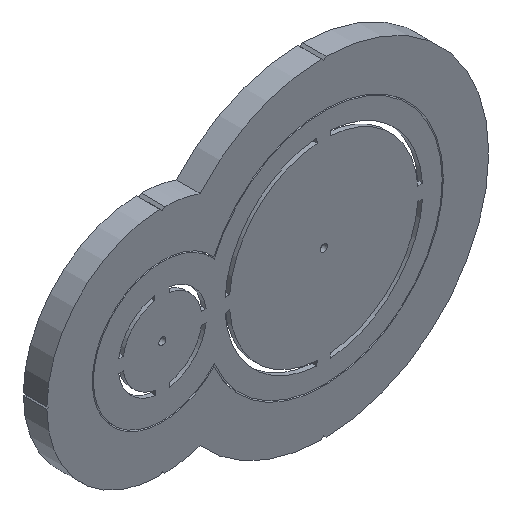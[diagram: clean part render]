
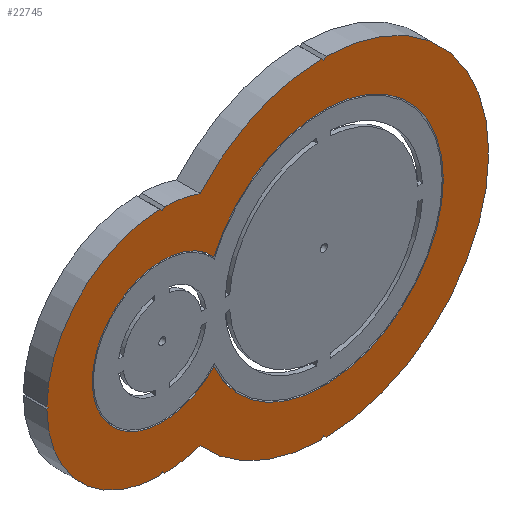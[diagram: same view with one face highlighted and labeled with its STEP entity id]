
A CAD part, isometric view. The second image highlights one B-rep face of the part: STEP entity #22745.
In plain terms, the highlighted planar face has unit normal (0, -1, 0).
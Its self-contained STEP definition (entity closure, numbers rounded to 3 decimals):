
#1780=CIRCLE('',#23405,29.75);
#1783=CIRCLE('',#23409,50.75);
#1784=CIRCLE('',#23578,49.);
#1785=CIRCLE('',#23580,49.);
#1786=CIRCLE('',#23583,70.);
#1787=CIRCLE('',#23589,70.);
#1788=CIRCLE('',#23591,70.);
#1789=CIRCLE('',#23592,70.);
#1790=CIRCLE('',#23593,49.);
#1791=CIRCLE('',#23594,49.);
#1899=FACE_BOUND('',#4279,.T.);
#2982=FACE_OUTER_BOUND('',#4278,.T.);
#4278=EDGE_LOOP('',(#19099,#19100,#19101,#19102,#19103,#19104,#19105,#19106,
#19107,#19108,#19109,#19110,#19111,#19112,#19113,#19114,#19115,#19116,#19117,
#19118));
#4279=EDGE_LOOP('',(#19119,#19120));
#6119=LINE('',#39015,#8183);
#6122=LINE('',#39020,#8186);
#6124=LINE('',#39025,#8188);
#6127=LINE('',#39030,#8191);
#6131=LINE('',#39046,#8195);
#6134=LINE('',#39051,#8198);
#6136=LINE('',#39056,#8200);
#6139=LINE('',#39061,#8203);
#6142=LINE('',#39071,#8206);
#6143=LINE('',#39073,#8207);
#6144=LINE('',#39079,#8208);
#6145=LINE('',#39080,#8209);
#8183=VECTOR('',#26027,10.);
#8186=VECTOR('',#26032,10.);
#8188=VECTOR('',#26036,10.);
#8191=VECTOR('',#26041,10.);
#8195=VECTOR('',#26061,10.);
#8198=VECTOR('',#26066,10.);
#8200=VECTOR('',#26070,10.);
#8203=VECTOR('',#26075,10.);
#8206=VECTOR('',#26086,10.);
#8207=VECTOR('',#26087,10.);
#8208=VECTOR('',#26094,10.);
#8209=VECTOR('',#26095,10.);
#9983=VERTEX_POINT('',#34435);
#9984=VERTEX_POINT('',#34437);
#10378=VERTEX_POINT('',#39013);
#10379=VERTEX_POINT('',#39014);
#10380=VERTEX_POINT('',#39019);
#10381=VERTEX_POINT('',#39023);
#10382=VERTEX_POINT('',#39024);
#10383=VERTEX_POINT('',#39029);
#10384=VERTEX_POINT('',#39033);
#10385=VERTEX_POINT('',#39037);
#10386=VERTEX_POINT('',#39044);
#10387=VERTEX_POINT('',#39045);
#10388=VERTEX_POINT('',#39050);
#10389=VERTEX_POINT('',#39054);
#10390=VERTEX_POINT('',#39055);
#10391=VERTEX_POINT('',#39060);
#10392=VERTEX_POINT('',#39064);
#10393=VERTEX_POINT('',#39068);
#10394=VERTEX_POINT('',#39070);
#10395=VERTEX_POINT('',#39072);
#10396=VERTEX_POINT('',#39076);
#10397=VERTEX_POINT('',#39078);
#12644=EDGE_CURVE('',#9984,#9983,#1780,.T.);
#12651=EDGE_CURVE('',#9983,#9984,#1783,.T.);
#13401=EDGE_CURVE('',#10378,#10379,#6119,.T.);
#13404=EDGE_CURVE('',#10380,#10378,#6122,.T.);
#13406=EDGE_CURVE('',#10381,#10382,#6124,.T.);
#13409=EDGE_CURVE('',#10382,#10383,#6127,.T.);
#13411=EDGE_CURVE('',#10384,#10380,#1784,.T.);
#13414=EDGE_CURVE('',#10379,#10385,#1785,.T.);
#13415=EDGE_CURVE('',#10385,#10381,#1786,.T.);
#13416=EDGE_CURVE('',#10386,#10387,#6131,.T.);
#13419=EDGE_CURVE('',#10387,#10388,#6134,.T.);
#13421=EDGE_CURVE('',#10389,#10390,#6136,.T.);
#13424=EDGE_CURVE('',#10390,#10391,#6139,.T.);
#13427=EDGE_CURVE('',#10388,#10392,#1787,.T.);
#13428=EDGE_CURVE('',#10383,#10393,#1788,.T.);
#13429=EDGE_CURVE('',#10393,#10394,#6142,.T.);
#13430=EDGE_CURVE('',#10394,#10395,#6143,.T.);
#13431=EDGE_CURVE('',#10395,#10386,#1789,.T.);
#13432=EDGE_CURVE('',#10392,#10389,#1790,.T.);
#13433=EDGE_CURVE('',#10391,#10396,#1791,.T.);
#13434=EDGE_CURVE('',#10396,#10397,#6144,.T.);
#13435=EDGE_CURVE('',#10397,#10384,#6145,.T.);
#19099=ORIENTED_EDGE('',*,*,#13401,.T.);
#19100=ORIENTED_EDGE('',*,*,#13414,.T.);
#19101=ORIENTED_EDGE('',*,*,#13415,.T.);
#19102=ORIENTED_EDGE('',*,*,#13406,.T.);
#19103=ORIENTED_EDGE('',*,*,#13409,.T.);
#19104=ORIENTED_EDGE('',*,*,#13428,.T.);
#19105=ORIENTED_EDGE('',*,*,#13429,.T.);
#19106=ORIENTED_EDGE('',*,*,#13430,.T.);
#19107=ORIENTED_EDGE('',*,*,#13431,.T.);
#19108=ORIENTED_EDGE('',*,*,#13416,.T.);
#19109=ORIENTED_EDGE('',*,*,#13419,.T.);
#19110=ORIENTED_EDGE('',*,*,#13427,.T.);
#19111=ORIENTED_EDGE('',*,*,#13432,.T.);
#19112=ORIENTED_EDGE('',*,*,#13421,.T.);
#19113=ORIENTED_EDGE('',*,*,#13424,.T.);
#19114=ORIENTED_EDGE('',*,*,#13433,.T.);
#19115=ORIENTED_EDGE('',*,*,#13434,.T.);
#19116=ORIENTED_EDGE('',*,*,#13435,.T.);
#19117=ORIENTED_EDGE('',*,*,#13411,.T.);
#19118=ORIENTED_EDGE('',*,*,#13404,.T.);
#19119=ORIENTED_EDGE('',*,*,#12651,.T.);
#19120=ORIENTED_EDGE('',*,*,#12644,.T.);
#21746=PLANE('',#23590);
#22745=ADVANCED_FACE('',(#2982,#1899),#21746,.T.);
#23405=AXIS2_PLACEMENT_3D('',#34438,#25186,#25187);
#23409=AXIS2_PLACEMENT_3D('',#34449,#25198,#25199);
#23578=AXIS2_PLACEMENT_3D('',#39034,#26045,#26046);
#23580=AXIS2_PLACEMENT_3D('',#39039,#26051,#26052);
#23583=AXIS2_PLACEMENT_3D('',#39042,#26057,#26058);
#23589=AXIS2_PLACEMENT_3D('',#39066,#26080,#26081);
#23590=AXIS2_PLACEMENT_3D('',#39067,#26082,#26083);
#23591=AXIS2_PLACEMENT_3D('',#39069,#26084,#26085);
#23592=AXIS2_PLACEMENT_3D('',#39074,#26088,#26089);
#23593=AXIS2_PLACEMENT_3D('',#39075,#26090,#26091);
#23594=AXIS2_PLACEMENT_3D('',#39077,#26092,#26093);
#25186=DIRECTION('center_axis',(0.,1.,0.));
#25187=DIRECTION('ref_axis',(0.736,0.,0.676));
#25198=DIRECTION('center_axis',(0.,1.,0.));
#25199=DIRECTION('ref_axis',(-0.918,0.,-0.397));
#26027=DIRECTION('',(0.707,0.,-0.708));
#26032=DIRECTION('',(0.708,0.,0.707));
#26036=DIRECTION('',(0.708,0.,0.706));
#26041=DIRECTION('',(0.706,0.,-0.708));
#26045=DIRECTION('center_axis',(0.,-1.,0.));
#26046=DIRECTION('ref_axis',(0.327,0.,0.945));
#26051=DIRECTION('center_axis',(0.,-1.,0.));
#26052=DIRECTION('ref_axis',(0.327,0.,0.945));
#26057=DIRECTION('center_axis',(0.,-1.,0.));
#26058=DIRECTION('ref_axis',(-0.75,0.,-0.662));
#26061=DIRECTION('',(-0.707,0.,-0.707));
#26066=DIRECTION('',(-0.707,0.,0.707));
#26070=DIRECTION('',(-0.707,0.,-0.707));
#26075=DIRECTION('',(-0.707,0.,0.707));
#26080=DIRECTION('center_axis',(0.,-1.,0.));
#26081=DIRECTION('ref_axis',(-0.75,0.,-0.662));
#26082=DIRECTION('center_axis',(0.,-1.,0.));
#26083=DIRECTION('ref_axis',(1.,0.,0.));
#26084=DIRECTION('center_axis',(0.,-1.,0.));
#26085=DIRECTION('ref_axis',(-0.75,0.,-0.662));
#26086=DIRECTION('',(-0.706,0.,0.708));
#26087=DIRECTION('',(0.706,0.,0.708));
#26088=DIRECTION('center_axis',(0.,-1.,0.));
#26089=DIRECTION('ref_axis',(-0.75,0.,-0.662));
#26090=DIRECTION('center_axis',(0.,-1.,0.));
#26091=DIRECTION('ref_axis',(0.327,0.,0.945));
#26092=DIRECTION('center_axis',(0.,-1.,0.));
#26093=DIRECTION('ref_axis',(0.327,0.,0.945));
#26094=DIRECTION('',(0.705,0.,-0.709));
#26095=DIRECTION('',(-0.705,0.,-0.709));
#34435=CARTESIAN_POINT('',(21.911,-13.,20.124));
#34437=CARTESIAN_POINT('',(21.911,-13.,-20.124));
#34438=CARTESIAN_POINT('Origin',(0.,-13.,0.));
#34449=CARTESIAN_POINT('Origin',(68.5,-13.,0.));
#39013=CARTESIAN_POINT('',(0.,-13.,-48.));
#39014=CARTESIAN_POINT('',(0.988,-13.,-48.99));
#39015=CARTESIAN_POINT('',(-0.337,-13.,-47.662));
#39019=CARTESIAN_POINT('',(-0.992,-13.,-48.99));
#39020=CARTESIAN_POINT('',(23.206,-13.,-24.833));
#39023=CARTESIAN_POINT('',(67.504,-13.,-69.993));
#39024=CARTESIAN_POINT('',(68.5,-13.,-69.));
#39025=CARTESIAN_POINT('',(79.793,-13.,-57.743));
#39029=CARTESIAN_POINT('',(69.49,-13.,-69.993));
#39030=CARTESIAN_POINT('',(45.827,-13.,-46.253));
#39033=CARTESIAN_POINT('',(-48.997,-13.,-0.5));
#39034=CARTESIAN_POINT('Origin',(0.,-13.,0.));
#39037=CARTESIAN_POINT('',(16.009,-13.,-46.311));
#39039=CARTESIAN_POINT('Origin',(0.,-13.,0.));
#39042=CARTESIAN_POINT('Origin',(68.5,-13.,0.));
#39044=CARTESIAN_POINT('',(69.492,-13.,69.993));
#39045=CARTESIAN_POINT('',(68.5,-13.,69.));
#39046=CARTESIAN_POINT('',(45.315,-13.,45.804));
#39050=CARTESIAN_POINT('',(67.507,-13.,69.993));
#39051=CARTESIAN_POINT('',(79.313,-13.,58.192));
#39054=CARTESIAN_POINT('',(0.99,-13.,48.99));
#39055=CARTESIAN_POINT('',(0.,-13.,48.));
#39056=CARTESIAN_POINT('',(-0.813,-13.,47.187));
#39060=CARTESIAN_POINT('',(-0.99,-13.,48.99));
#39061=CARTESIAN_POINT('',(22.693,-13.,25.308));
#39064=CARTESIAN_POINT('',(16.009,-13.,46.311));
#39066=CARTESIAN_POINT('Origin',(68.5,-13.,0.));
#39067=CARTESIAN_POINT('Origin',(44.75,-13.,0.));
#39068=CARTESIAN_POINT('',(138.498,-13.,-0.5));
#39069=CARTESIAN_POINT('Origin',(68.5,-13.,0.));
#39070=CARTESIAN_POINT('',(138.,-13.,0.));
#39071=CARTESIAN_POINT('',(114.771,-13.,23.312));
#39072=CARTESIAN_POINT('',(138.498,-13.,0.5));
#39073=CARTESIAN_POINT('',(115.02,-13.,-23.062));
#39074=CARTESIAN_POINT('Origin',(68.5,-13.,0.));
#39075=CARTESIAN_POINT('Origin',(0.,-13.,0.));
#39076=CARTESIAN_POINT('',(-48.997,-13.,0.5));
#39077=CARTESIAN_POINT('Origin',(0.,-13.,0.));
#39078=CARTESIAN_POINT('',(-48.5,-13.,0.));
#39079=CARTESIAN_POINT('',(-25.307,-13.,-23.312));
#39080=CARTESIAN_POINT('',(-25.555,-13.,23.062));
